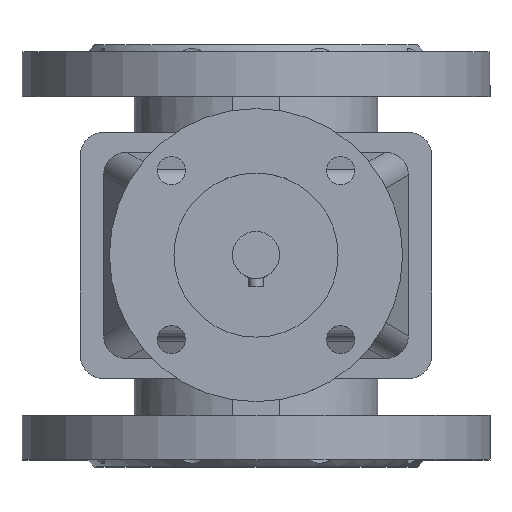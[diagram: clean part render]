
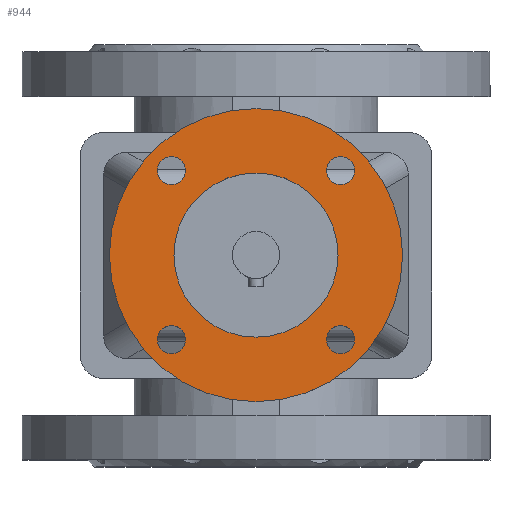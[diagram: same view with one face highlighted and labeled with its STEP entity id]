
A CAD part, top view. The second image highlights one B-rep face of the part: STEP entity #944.
In plain terms, the highlighted planar face has unit normal (0, 0, 1).
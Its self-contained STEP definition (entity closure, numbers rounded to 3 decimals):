
#944=ADVANCED_FACE('',(#2115,#2117,#2119,#2121,#2123,#2125),#2127,.T.);
#2115=FACE_BOUND('',#2116,.T.);
#2116=EDGE_LOOP('',(#2738));
#2117=FACE_BOUND('',#2118,.T.);
#2118=EDGE_LOOP('',(#2739));
#2119=FACE_BOUND('',#2120,.T.);
#2120=EDGE_LOOP('',(#2740));
#2121=FACE_BOUND('',#2122,.T.);
#2122=EDGE_LOOP('',(#2741));
#2123=FACE_BOUND('',#2124,.T.);
#2124=EDGE_LOOP('',(#2742));
#2125=FACE_BOUND('',#2126,.T.);
#2126=EDGE_LOOP('',(#2743));
#2127=PLANE('',#2128);
#2128=AXIS2_PLACEMENT_3D('',#2129,#2130,#2131);
#2129=CARTESIAN_POINT('',(0.,0.,219.));
#2130=DIRECTION('',(0.,0.,1.));
#2131=DIRECTION('',(-1.,0.,0.));
#2738=ORIENTED_EDGE('',*,*,#3040,.F.);
#2739=ORIENTED_EDGE('',*,*,#3041,.T.);
#2740=ORIENTED_EDGE('',*,*,#3042,.T.);
#2741=ORIENTED_EDGE('',*,*,#3043,.T.);
#2742=ORIENTED_EDGE('',*,*,#3045,.T.);
#2743=ORIENTED_EDGE('',*,*,#3044,.T.);
#3040=EDGE_CURVE('',#3513,#3513,#3514,.T.);
#3041=EDGE_CURVE('',#3515,#3515,#3516,.F.);
#3042=EDGE_CURVE('',#3517,#3517,#3518,.F.);
#3043=EDGE_CURVE('',#3519,#3519,#3520,.F.);
#3044=EDGE_CURVE('',#3521,#3521,#3522,.F.);
#3045=EDGE_CURVE('',#3523,#3523,#3524,.T.);
#3513=VERTEX_POINT('',#5898);
#3514=CIRCLE('',#5899,62.5);
#3515=VERTEX_POINT('',#5903);
#3516=CIRCLE('',#5904,6.);
#3517=VERTEX_POINT('',#5908);
#3518=CIRCLE('',#5909,6.);
#3519=VERTEX_POINT('',#5913);
#3520=CIRCLE('',#5914,6.);
#3521=VERTEX_POINT('',#5918);
#3522=CIRCLE('',#5919,6.);
#3523=VERTEX_POINT('',#5923);
#3524=CIRCLE('',#5924,35.);
#5898=CARTESIAN_POINT('',(-62.5,0.,219.));
#5899=AXIS2_PLACEMENT_3D('',#5900,#5901,#5902);
#5900=CARTESIAN_POINT('',(0.,0.,219.));
#5901=DIRECTION('',(0.,0.,-1.));
#5902=DIRECTION('',(-1.,0.,0.));
#5903=CARTESIAN_POINT('',(-36.062,-30.062,219.));
#5904=AXIS2_PLACEMENT_3D('',#5905,#5906,#5907);
#5905=CARTESIAN_POINT('',(-36.062,-36.062,219.));
#5906=DIRECTION('',(0.,0.,1.));
#5907=DIRECTION('',(0.,1.,0.));
#5908=CARTESIAN_POINT('',(-30.062,36.062,219.));
#5909=AXIS2_PLACEMENT_3D('',#5910,#5911,#5912);
#5910=CARTESIAN_POINT('',(-36.062,36.062,219.));
#5911=DIRECTION('',(0.,0.,1.));
#5912=DIRECTION('',(1.,0.,0.));
#5913=CARTESIAN_POINT('',(36.062,30.062,219.));
#5914=AXIS2_PLACEMENT_3D('',#5915,#5916,#5917);
#5915=CARTESIAN_POINT('',(36.062,36.062,219.));
#5916=DIRECTION('',(0.,0.,1.));
#5917=DIRECTION('',(0.,-1.,0.));
#5918=CARTESIAN_POINT('',(30.062,-36.062,219.));
#5919=AXIS2_PLACEMENT_3D('',#5920,#5921,#5922);
#5920=CARTESIAN_POINT('',(36.062,-36.062,219.));
#5921=DIRECTION('',(0.,0.,1.));
#5922=DIRECTION('',(-1.,0.,0.));
#5923=CARTESIAN_POINT('',(-35.,0.,219.));
#5924=AXIS2_PLACEMENT_3D('',#5925,#5926,#5927);
#5925=CARTESIAN_POINT('',(0.,0.,219.));
#5926=DIRECTION('',(0.,0.,-1.));
#5927=DIRECTION('',(-1.,0.,0.));
